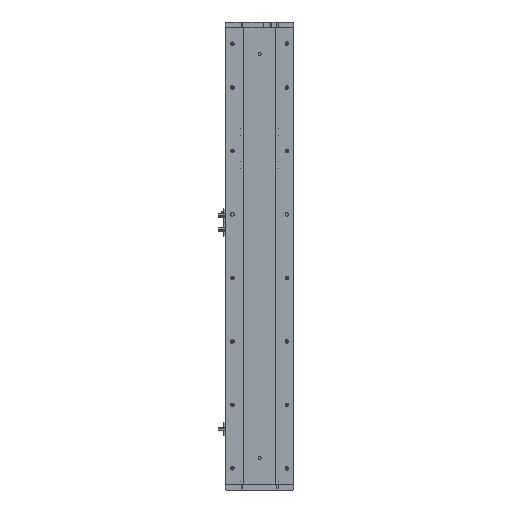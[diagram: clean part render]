
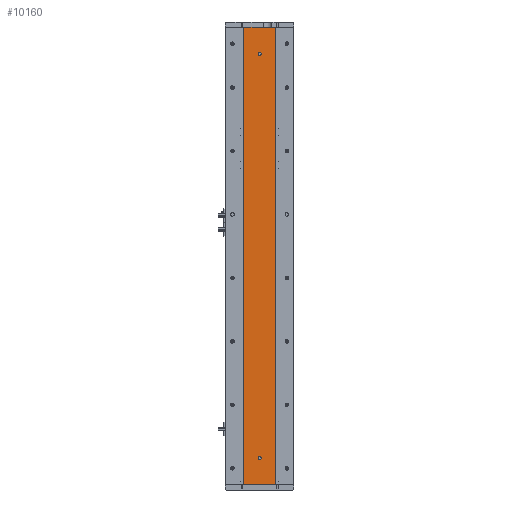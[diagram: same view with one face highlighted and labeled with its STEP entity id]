
A CAD part, left-side view. The second image highlights one B-rep face of the part: STEP entity #10160.
In plain terms, the highlighted planar face has unit normal (-1, 0, 0).
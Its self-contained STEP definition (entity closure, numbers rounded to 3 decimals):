
#131 = DIRECTION ( 'NONE',  ( 1., 0., 0. ) ) ;
#920 = DIRECTION ( 'NONE',  ( -1., 0., 0. ) ) ;
#1174 = DIRECTION ( 'NONE',  ( -1., 0., 0. ) ) ;
#1874 = CIRCLE ( 'NONE', #31622, 3. ) ;
#2031 = AXIS2_PLACEMENT_3D ( 'NONE', #17293, #1174, #19984 ) ;
#2685 = CIRCLE ( 'NONE', #6583, 3. ) ;
#4085 = VERTEX_POINT ( 'NONE', #34156 ) ;
#4961 = EDGE_CURVE ( 'NONE', #28969, #16364, #13490, .T. ) ;
#4980 = LINE ( 'NONE', #28194, #19288 ) ;
#4990 = EDGE_LOOP ( 'NONE', ( #20413, #7059 ) ) ;
#5197 = ORIENTED_EDGE ( 'NONE', *, *, #14871, .T. ) ;
#5209 = EDGE_CURVE ( 'NONE', #16976, #32995, #8793, .T. ) ;
#5231 = CARTESIAN_POINT ( 'NONE',  ( -24.994, 29.785, 0. ) ) ;
#5276 = VECTOR ( 'NONE', #15113, 1000. ) ;
#5306 = DIRECTION ( 'NONE',  ( 0., -1., 0. ) ) ;
#6023 = CARTESIAN_POINT ( 'NONE',  ( -24.994, 0., 47. ) ) ;
#6583 = AXIS2_PLACEMENT_3D ( 'NONE', #30087, #14010, #32827 ) ;
#7059 = ORIENTED_EDGE ( 'NONE', *, *, #17418, .F. ) ;
#7614 = ORIENTED_EDGE ( 'NONE', *, *, #19064, .F. ) ;
#7934 = EDGE_LOOP ( 'NONE', ( #5197, #7997, #17533, #34122 ) ) ;
#7997 = ORIENTED_EDGE ( 'NONE', *, *, #20458, .F. ) ;
#8618 = CARTESIAN_POINT ( 'NONE',  ( -24.994, 0., 815. ) ) ;
#8793 = CIRCLE ( 'NONE', #2031, 3. ) ;
#10160 = ADVANCED_FACE ( 'NONE', ( #22398, #28694, #14377 ), #18743, .F. ) ;
#11349 = DIRECTION ( 'NONE',  ( 0., 0., 1. ) ) ;
#11643 = EDGE_CURVE ( 'NONE', #34239, #24368, #31921, .T. ) ;
#13490 = LINE ( 'NONE', #21440, #23180 ) ;
#14010 = DIRECTION ( 'NONE',  ( -1., 0., 0. ) ) ;
#14377 = FACE_OUTER_BOUND ( 'NONE', #7934, .T. ) ;
#14871 = EDGE_CURVE ( 'NONE', #4085, #30985, #18397, .T. ) ;
#15113 = DIRECTION ( 'NONE',  ( 0., 0., -1. ) ) ;
#15633 = EDGE_LOOP ( 'NONE', ( #7614, #21038 ) ) ;
#16255 = CARTESIAN_POINT ( 'NONE',  ( -24.994, 29.785, 865. ) ) ;
#16364 = VERTEX_POINT ( 'NONE', #23987 ) ;
#16976 = VERTEX_POINT ( 'NONE', #6023 ) ;
#17018 = CARTESIAN_POINT ( 'NONE',  ( -24.994, 0., 50. ) ) ;
#17293 = CARTESIAN_POINT ( 'NONE',  ( -24.994, 0., 50. ) ) ;
#17418 = EDGE_CURVE ( 'NONE', #24368, #34239, #2685, .T. ) ;
#17533 = ORIENTED_EDGE ( 'NONE', *, *, #4961, .F. ) ;
#17539 = VECTOR ( 'NONE', #24057, 1000. ) ;
#17841 = CARTESIAN_POINT ( 'NONE',  ( -24.994, 29.785, 865. ) ) ;
#18397 = LINE ( 'NONE', #5231, #17539 ) ;
#18435 = CARTESIAN_POINT ( 'NONE',  ( -24.994, 0., 818. ) ) ;
#18743 = PLANE ( 'NONE',  #24042 ) ;
#18963 = DIRECTION ( 'NONE',  ( 0., 0., -1. ) ) ;
#19064 = EDGE_CURVE ( 'NONE', #32995, #16976, #1874, .T. ) ;
#19288 = VECTOR ( 'NONE', #30867, 1000. ) ;
#19729 = DIRECTION ( 'NONE',  ( 0., 0., 1. ) ) ;
#19984 = DIRECTION ( 'NONE',  ( 0., 0., 1. ) ) ;
#20413 = ORIENTED_EDGE ( 'NONE', *, *, #11643, .F. ) ;
#20458 = EDGE_CURVE ( 'NONE', #16364, #30985, #4980, .T. ) ;
#21038 = ORIENTED_EDGE ( 'NONE', *, *, #5209, .F. ) ;
#21440 = CARTESIAN_POINT ( 'NONE',  ( -24.994, 29.785, 865. ) ) ;
#22398 = FACE_BOUND ( 'NONE', #4990, .T. ) ;
#23180 = VECTOR ( 'NONE', #5306, 1000. ) ;
#23987 = CARTESIAN_POINT ( 'NONE',  ( -24.994, -29.785, 865. ) ) ;
#24042 = AXIS2_PLACEMENT_3D ( 'NONE', #16255, #131, #18963 ) ;
#24057 = DIRECTION ( 'NONE',  ( 0., -1., 0. ) ) ;
#24368 = VERTEX_POINT ( 'NONE', #26946 ) ;
#25220 = CARTESIAN_POINT ( 'NONE',  ( -24.994, 0., 53. ) ) ;
#26946 = CARTESIAN_POINT ( 'NONE',  ( -24.994, 0., 812. ) ) ;
#27275 = CARTESIAN_POINT ( 'NONE',  ( -24.994, -29.785, 0. ) ) ;
#27461 = DIRECTION ( 'NONE',  ( -1., 0., 0. ) ) ;
#27547 = CARTESIAN_POINT ( 'NONE',  ( -24.994, 29.785, 865. ) ) ;
#28194 = CARTESIAN_POINT ( 'NONE',  ( -24.994, -29.785, 865. ) ) ;
#28694 = FACE_BOUND ( 'NONE', #15633, .T. ) ;
#28969 = VERTEX_POINT ( 'NONE', #27547 ) ;
#29452 = AXIS2_PLACEMENT_3D ( 'NONE', #8618, #27461, #11349 ) ;
#30087 = CARTESIAN_POINT ( 'NONE',  ( -24.994, 0., 815. ) ) ;
#30867 = DIRECTION ( 'NONE',  ( 0., 0., -1. ) ) ;
#30985 = VERTEX_POINT ( 'NONE', #27275 ) ;
#31622 = AXIS2_PLACEMENT_3D ( 'NONE', #17018, #920, #19729 ) ;
#31921 = CIRCLE ( 'NONE', #29452, 3. ) ;
#32529 = EDGE_CURVE ( 'NONE', #28969, #4085, #33041, .T. ) ;
#32827 = DIRECTION ( 'NONE',  ( 0., 0., 1. ) ) ;
#32995 = VERTEX_POINT ( 'NONE', #25220 ) ;
#33041 = LINE ( 'NONE', #17841, #5276 ) ;
#34122 = ORIENTED_EDGE ( 'NONE', *, *, #32529, .T. ) ;
#34156 = CARTESIAN_POINT ( 'NONE',  ( -24.994, 29.785, 0. ) ) ;
#34239 = VERTEX_POINT ( 'NONE', #18435 ) ;
